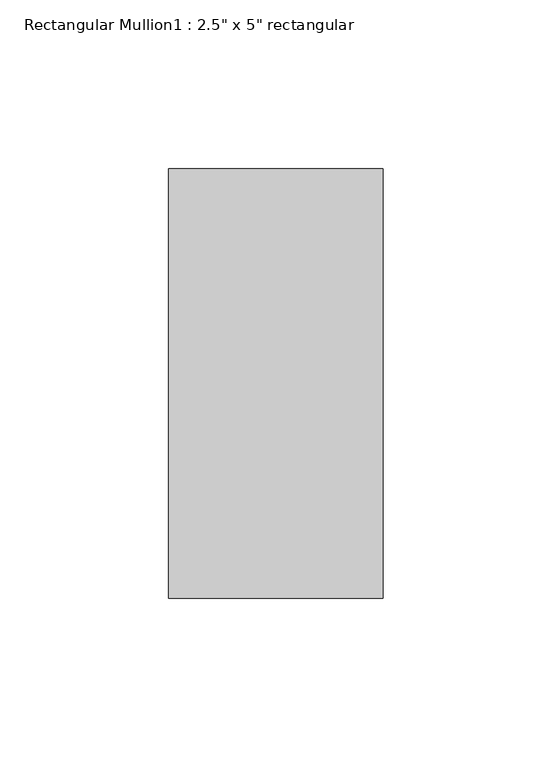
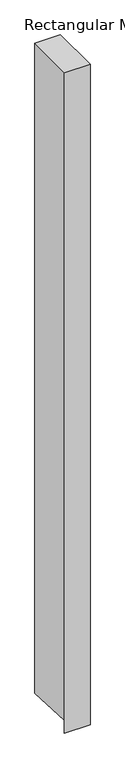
"""IFC4 building model written with IfcOpenShell, lengths in millimetres: member geometry."""

from ifc_helpers import new_model, si_unit, frame, origin, place, context, project, spatial, polyline, outline, extrude, source, transform, mapped, element, save


def member_a8d07153(model_context):
    return source(origin(), model_context, "Body", "SweptSolid", [
        extrude(outline(polyline([(-63.5, 0.0), (63.5, 0.0), (63.5, -1705.0231573), (-62.1974623, -1700.0584389), (-63.5, -1733.0362781), (-63.5, 0.0)])), frame((-63.5, 0.0, 0.0), z_axis=(1.0, 0.0, 0.0), x_axis=(0.0, 1.0, 0.0)), (0.0, 0.0, 1.0), 63.5),
    ])


if __name__ == "__main__":
    model = new_model("IFC4")
    model_context = context("Model", 3, world=origin())
    ifc_project = project(units=[si_unit("LENGTHUNIT", "METRE", prefix="MILLI")], contexts=[model_context])
    site = spatial("IfcSite", under=ifc_project)
    building = spatial("IfcBuilding", under=site)
    placement = place(None, origin())
    member_shape = member_a8d07153(model_context)
    element("IfcMember", 1, ObjectType="Rectangular Mullion1 : 2.5\" x 5\" rectangular", at=placement, inside=building, context=model_context, shape_type="MappedRepresentation", body=[
        mapped(member_shape, transform((0.0, 0.0, 0.0), x_axis=(1.0, 0.0, 0.0), y_axis=(0.0, 1.0, 0.0), z_axis=(0.0, 0.0, 1.0))),
    ])
    save(model, "model.ifc")
